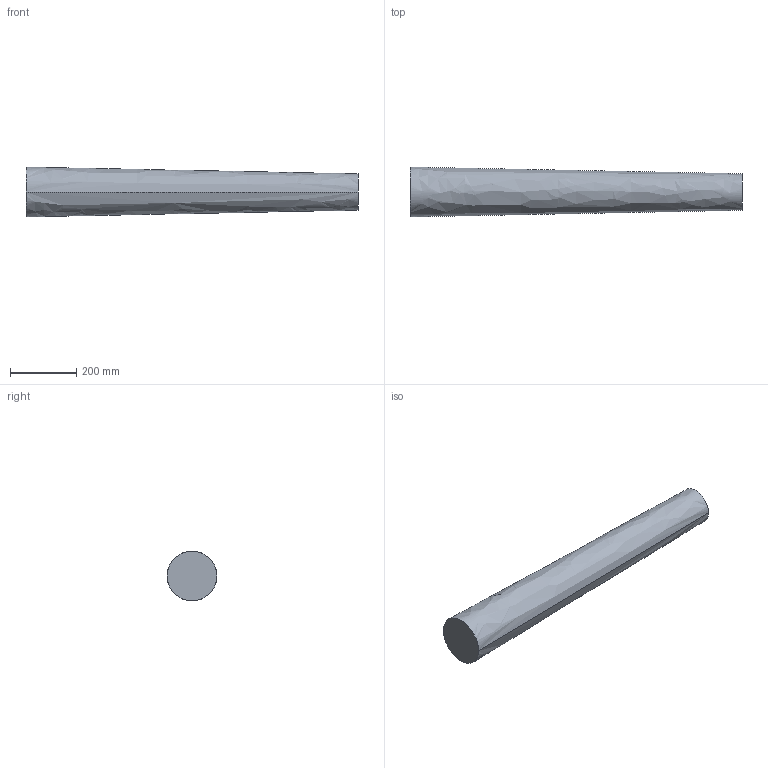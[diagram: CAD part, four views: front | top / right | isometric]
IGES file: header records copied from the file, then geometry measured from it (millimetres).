
Start section:  PTC IGES file: tapered_bar_lab2.igs
Global section: file name: tapered_bar_lab2.igs; native system: Creo Parametric by PTC Inc.; preprocessor: 2020053; author: Kirkland; organization: Unknown; date: 20230117.144357; units: millimetre
Bounding box: 1000 x 150 x 149.73 mm (x, y, z)
Surface area: 435647.6 mm2 (no closed solid volume)
Topology: 0 solids, 0 shells, 4 faces, 12 edges, 12 vertices
Faces by surface type: bspline 4
